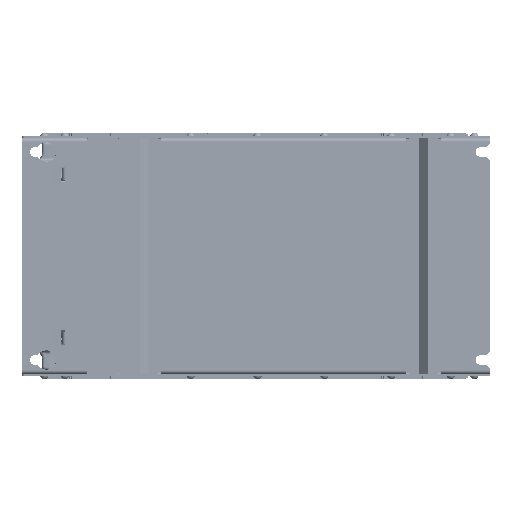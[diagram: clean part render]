
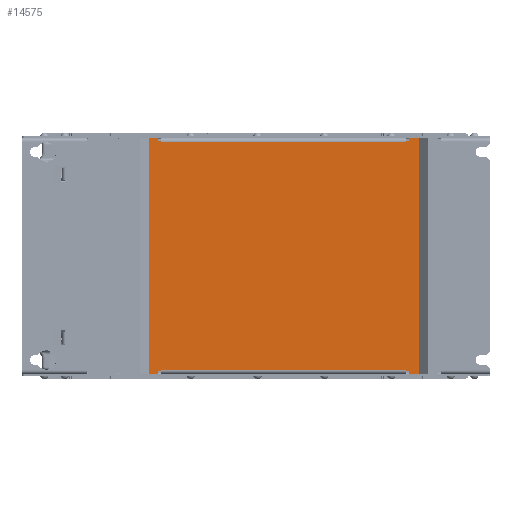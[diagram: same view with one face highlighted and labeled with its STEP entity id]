
A CAD part, front view. The second image highlights one B-rep face of the part: STEP entity #14575.
In plain terms, the highlighted planar face has unit normal (0, -1, 0) as drawn and (0, 0, -1) by its records, which use the part's own axes.
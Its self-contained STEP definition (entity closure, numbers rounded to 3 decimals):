
#9538=CARTESIAN_POINT('',(-79.,-4.5,0.));
#9539=DIRECTION('',(0.,0.,1.));
#9540=DIRECTION('',(-1.,0.,0.));
#9541=AXIS2_PLACEMENT_3D('',#9538,#9539,#9540);
#9546=DIRECTION('',(1.,0.,0.));
#9547=VECTOR('',#9546,1.5);
#9548=CARTESIAN_POINT('',(-79.,-5.,0.));
#9549=LINE('',#9548,#9547);
#9553=DIRECTION('',(0.,-1.,0.));
#9554=VECTOR('',#9553,2.);
#9555=CARTESIAN_POINT('',(-77.5,-5.,0.));
#9556=LINE('',#9555,#9554);
#9560=DIRECTION('',(-1.,0.,0.));
#9561=VECTOR('',#9560,0.5);
#9562=CARTESIAN_POINT('',(-77.,-172.,0.));
#9563=LINE('',#9562,#9561);
#9567=DIRECTION('',(0.,-1.,0.));
#9568=VECTOR('',#9567,2.);
#9569=CARTESIAN_POINT('',(-77.5,-172.,0.));
#9570=LINE('',#9569,#9568);
#9574=CARTESIAN_POINT('',(-79.,-174.5,0.));
#9575=DIRECTION('',(0.,0.,1.));
#9576=DIRECTION('',(0.,1.,0.));
#9577=AXIS2_PLACEMENT_3D('',#9574,#9575,#9576);
#9582=DIRECTION('',(0.,-1.,0.));
#9583=VECTOR('',#9582,6.5);
#9584=CARTESIAN_POINT('',(-79.5,-174.5,0.));
#9585=LINE('',#9584,#9583);
#9589=DIRECTION('',(1.,0.,0.));
#9590=VECTOR('',#9589,159.);
#9591=CARTESIAN_POINT('',(-79.5,-181.,0.));
#9592=LINE('',#9591,#9590);
#9596=CARTESIAN_POINT('',(79.,-174.5,0.));
#9597=DIRECTION('',(0.,0.,1.));
#9598=DIRECTION('',(1.,0.,0.));
#9599=AXIS2_PLACEMENT_3D('',#9596,#9597,#9598);
#9604=DIRECTION('',(-1.,0.,0.));
#9605=VECTOR('',#9604,1.5);
#9606=CARTESIAN_POINT('',(79.,-174.,0.));
#9607=LINE('',#9606,#9605);
#9611=DIRECTION('',(0.,1.,0.));
#9612=VECTOR('',#9611,2.);
#9613=CARTESIAN_POINT('',(77.5,-174.,0.));
#9614=LINE('',#9613,#9612);
#9618=DIRECTION('',(1.,0.,0.));
#9619=VECTOR('',#9618,0.5);
#9620=CARTESIAN_POINT('',(77.,-7.,0.));
#9621=LINE('',#9620,#9619);
#9625=DIRECTION('',(0.,1.,0.));
#9626=VECTOR('',#9625,2.);
#9627=CARTESIAN_POINT('',(77.5,-7.,0.));
#9628=LINE('',#9627,#9626);
#9632=CARTESIAN_POINT('',(79.,-4.5,0.));
#9633=DIRECTION('',(0.,0.,1.));
#9634=DIRECTION('',(0.,-1.,0.));
#9635=AXIS2_PLACEMENT_3D('',#9632,#9633,#9634);
#9640=DIRECTION('',(0.,-1.,0.));
#9641=VECTOR('',#9640,5.5);
#9642=CARTESIAN_POINT('',(-79.5,1.,0.));
#9643=LINE('',#9642,#9641);
#9763=DIRECTION('',(1.,0.,0.));
#9764=VECTOR('',#9763,159.);
#9765=CARTESIAN_POINT('',(-79.5,1.,0.));
#9766=LINE('',#9765,#9764);
#9805=DIRECTION('',(0.,-1.,0.));
#9806=VECTOR('',#9805,5.5);
#9807=CARTESIAN_POINT('',(79.5,1.,0.));
#9808=LINE('',#9807,#9806);
#9826=DIRECTION('',(-1.,0.,0.));
#9827=VECTOR('',#9826,1.5);
#9828=CARTESIAN_POINT('',(79.,-5.,0.));
#9829=LINE('',#9828,#9827);
#9869=DIRECTION('',(0.,-1.,0.));
#9870=VECTOR('',#9869,165.);
#9871=CARTESIAN_POINT('',(77.,-7.,0.));
#9872=LINE('',#9871,#9870);
#10243=DIRECTION('',(1.,0.,0.));
#10244=VECTOR('',#10243,0.5);
#10245=CARTESIAN_POINT('',(77.,-172.,0.));
#10246=LINE('',#10245,#10244);
#10286=DIRECTION('',(0.,-1.,0.));
#10287=VECTOR('',#10286,6.5);
#10288=CARTESIAN_POINT('',(79.5,-174.5,0.));
#10289=LINE('',#10288,#10287);
#10363=DIRECTION('',(1.,0.,0.));
#10364=VECTOR('',#10363,1.5);
#10365=CARTESIAN_POINT('',(-79.,-174.,0.));
#10366=LINE('',#10365,#10364);
#10413=DIRECTION('',(0.,1.,0.));
#10414=VECTOR('',#10413,165.);
#10415=CARTESIAN_POINT('',(-77.,-172.,0.));
#10416=LINE('',#10415,#10414);
#10780=DIRECTION('',(-1.,0.,0.));
#10781=VECTOR('',#10780,0.5);
#10782=CARTESIAN_POINT('',(-77.,-7.,0.));
#10783=LINE('',#10782,#10781);
#13756=CARTESIAN_POINT('',(-79.5,-4.5,0.));
#13757=CARTESIAN_POINT('',(-79.,-5.,0.));
#13758=VERTEX_POINT('',#13756);
#13759=VERTEX_POINT('',#13757);
#13760=CARTESIAN_POINT('',(-77.5,-5.,0.));
#13761=VERTEX_POINT('',#13760);
#13762=CARTESIAN_POINT('',(-77.5,-7.,0.));
#13763=VERTEX_POINT('',#13762);
#13764=CARTESIAN_POINT('',(-77.,-7.,0.));
#13765=VERTEX_POINT('',#13764);
#13766=CARTESIAN_POINT('',(-77.,-172.,0.));
#13767=VERTEX_POINT('',#13766);
#13768=CARTESIAN_POINT('',(-77.5,-172.,0.));
#13769=VERTEX_POINT('',#13768);
#13770=CARTESIAN_POINT('',(-77.5,-174.,0.));
#13771=VERTEX_POINT('',#13770);
#13772=CARTESIAN_POINT('',(-79.,-174.,0.));
#13773=VERTEX_POINT('',#13772);
#13774=CARTESIAN_POINT('',(-79.5,-174.5,0.));
#13775=VERTEX_POINT('',#13774);
#13776=CARTESIAN_POINT('',(-79.5,-181.,0.));
#13777=VERTEX_POINT('',#13776);
#13778=CARTESIAN_POINT('',(79.5,-181.,0.));
#13779=VERTEX_POINT('',#13778);
#13780=CARTESIAN_POINT('',(79.5,-174.5,0.));
#13781=VERTEX_POINT('',#13780);
#13782=CARTESIAN_POINT('',(79.,-174.,0.));
#13783=VERTEX_POINT('',#13782);
#13784=CARTESIAN_POINT('',(77.5,-174.,0.));
#13785=VERTEX_POINT('',#13784);
#13786=CARTESIAN_POINT('',(77.5,-172.,0.));
#13787=VERTEX_POINT('',#13786);
#13788=CARTESIAN_POINT('',(77.,-172.,0.));
#13789=VERTEX_POINT('',#13788);
#13790=CARTESIAN_POINT('',(77.,-7.,0.));
#13791=VERTEX_POINT('',#13790);
#13792=CARTESIAN_POINT('',(77.5,-7.,0.));
#13793=VERTEX_POINT('',#13792);
#13794=CARTESIAN_POINT('',(77.5,-5.,0.));
#13795=VERTEX_POINT('',#13794);
#13796=CARTESIAN_POINT('',(79.,-5.,0.));
#13797=VERTEX_POINT('',#13796);
#13798=CARTESIAN_POINT('',(79.5,-4.5,0.));
#13799=VERTEX_POINT('',#13798);
#13800=CARTESIAN_POINT('',(79.5,1.,0.));
#13801=VERTEX_POINT('',#13800);
#13802=CARTESIAN_POINT('',(-79.5,1.,0.));
#13803=VERTEX_POINT('',#13802);
#14520=CARTESIAN_POINT('',(0.,0.,0.));
#14521=DIRECTION('',(0.,0.,1.));
#14522=DIRECTION('',(1.,0.,0.));
#14523=AXIS2_PLACEMENT_3D('',#14520,#14521,#14522);
#14524=PLANE('',#14523);
#14526=ORIENTED_EDGE('',*,*,#14525,.T.);
#14528=ORIENTED_EDGE('',*,*,#14527,.T.);
#14530=ORIENTED_EDGE('',*,*,#14529,.T.);
#14532=ORIENTED_EDGE('',*,*,#14531,.F.);
#14534=ORIENTED_EDGE('',*,*,#14533,.F.);
#14536=ORIENTED_EDGE('',*,*,#14535,.T.);
#14538=ORIENTED_EDGE('',*,*,#14537,.T.);
#14540=ORIENTED_EDGE('',*,*,#14539,.F.);
#14542=ORIENTED_EDGE('',*,*,#14541,.T.);
#14544=ORIENTED_EDGE('',*,*,#14543,.T.);
#14546=ORIENTED_EDGE('',*,*,#14545,.T.);
#14548=ORIENTED_EDGE('',*,*,#14547,.F.);
#14550=ORIENTED_EDGE('',*,*,#14549,.T.);
#14552=ORIENTED_EDGE('',*,*,#14551,.T.);
#14554=ORIENTED_EDGE('',*,*,#14553,.T.);
#14556=ORIENTED_EDGE('',*,*,#14555,.F.);
#14558=ORIENTED_EDGE('',*,*,#14557,.F.);
#14560=ORIENTED_EDGE('',*,*,#14559,.T.);
#14562=ORIENTED_EDGE('',*,*,#14561,.T.);
#14564=ORIENTED_EDGE('',*,*,#14563,.F.);
#14566=ORIENTED_EDGE('',*,*,#14565,.T.);
#14568=ORIENTED_EDGE('',*,*,#14567,.F.);
#14570=ORIENTED_EDGE('',*,*,#14569,.F.);
#14572=ORIENTED_EDGE('',*,*,#14571,.T.);
#14573=EDGE_LOOP('',(#14526,#14528,#14530,#14532,#14534,#14536,#14538,#14540,
#14542,#14544,#14546,#14548,#14550,#14552,#14554,#14556,#14558,#14560,#14562,
#14564,#14566,#14568,#14570,#14572));
#14574=FACE_OUTER_BOUND('',#14573,.F.);
#9542=CIRCLE('',#9541,0.5);
#9578=CIRCLE('',#9577,0.5);
#9600=CIRCLE('',#9599,0.5);
#9636=CIRCLE('',#9635,0.5);
#14525=EDGE_CURVE('',#13758,#13759,#9542,.T.);
#14527=EDGE_CURVE('',#13759,#13761,#9549,.T.);
#14529=EDGE_CURVE('',#13761,#13763,#9556,.T.);
#14531=EDGE_CURVE('',#13765,#13763,#10783,.T.);
#14533=EDGE_CURVE('',#13767,#13765,#10416,.T.);
#14535=EDGE_CURVE('',#13767,#13769,#9563,.T.);
#14537=EDGE_CURVE('',#13769,#13771,#9570,.T.);
#14539=EDGE_CURVE('',#13773,#13771,#10366,.T.);
#14541=EDGE_CURVE('',#13773,#13775,#9578,.T.);
#14543=EDGE_CURVE('',#13775,#13777,#9585,.T.);
#14545=EDGE_CURVE('',#13777,#13779,#9592,.T.);
#14547=EDGE_CURVE('',#13781,#13779,#10289,.T.);
#14549=EDGE_CURVE('',#13781,#13783,#9600,.T.);
#14551=EDGE_CURVE('',#13783,#13785,#9607,.T.);
#14553=EDGE_CURVE('',#13785,#13787,#9614,.T.);
#14555=EDGE_CURVE('',#13789,#13787,#10246,.T.);
#14557=EDGE_CURVE('',#13791,#13789,#9872,.T.);
#14559=EDGE_CURVE('',#13791,#13793,#9621,.T.);
#14561=EDGE_CURVE('',#13793,#13795,#9628,.T.);
#14563=EDGE_CURVE('',#13797,#13795,#9829,.T.);
#14565=EDGE_CURVE('',#13797,#13799,#9636,.T.);
#14567=EDGE_CURVE('',#13801,#13799,#9808,.T.);
#14569=EDGE_CURVE('',#13803,#13801,#9766,.T.);
#14571=EDGE_CURVE('',#13803,#13758,#9643,.T.);
#14575=ADVANCED_FACE('',(#14574),#14524,.F.);
